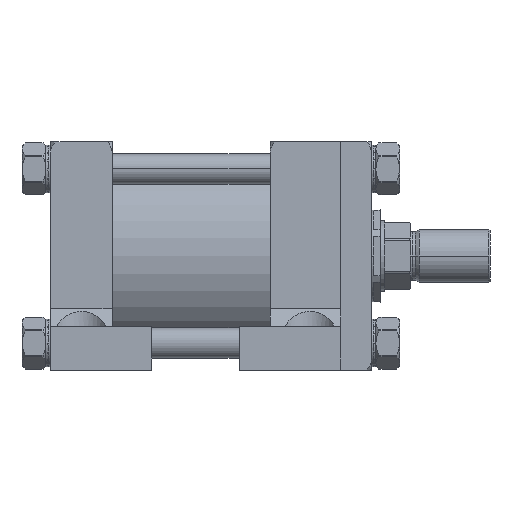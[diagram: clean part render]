
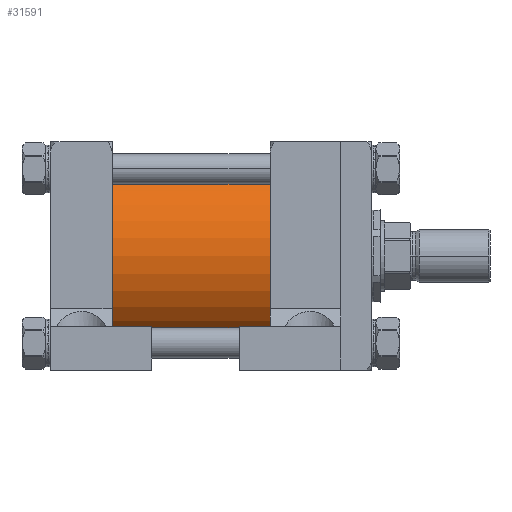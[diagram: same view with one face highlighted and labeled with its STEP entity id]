
A CAD part, front view. The second image highlights one B-rep face of the part: STEP entity #31591.
In plain terms, the highlighted cylindrical face has radius 73.025 mm (diameter 146.05 mm), a partial arc.
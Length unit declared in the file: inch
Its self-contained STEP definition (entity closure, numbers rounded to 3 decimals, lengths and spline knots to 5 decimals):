
#2464 = LINE ( 'NONE', #30349, #4382 ) ;
#2545 = ORIENTED_EDGE ( 'NONE', *, *, #36215, .T. ) ;
#3330 = EDGE_LOOP ( 'NONE', ( #29826, #2545, #46437, #58847 ) ) ;
#4382 = VECTOR ( 'NONE', #35982, 39.37008 ) ;
#5045 = CARTESIAN_POINT ( 'NONE',  ( -8.75, 0., -2.875 ) ) ;
#5155 = DIRECTION ( 'NONE',  ( 0., 0., -1. ) ) ;
#5754 = CARTESIAN_POINT ( 'NONE',  ( -8.75, 0., 0. ) ) ;
#5781 = CARTESIAN_POINT ( 'NONE',  ( -8.75, 0., 0. ) ) ;
#6100 = AXIS2_PLACEMENT_3D ( 'NONE', #24909, #38752, #53219 ) ;
#6422 = AXIS2_PLACEMENT_3D ( 'NONE', #5754, #25482, #53787 ) ;
#7953 = CYLINDRICAL_SURFACE ( 'NONE', #18632, 2.875 ) ;
#8418 = VECTOR ( 'NONE', #22705, 39.37008 ) ;
#8614 = VERTEX_POINT ( 'NONE', #32598 ) ;
#8896 = CARTESIAN_POINT ( 'NONE',  ( -8.75, 0., 2.875 ) ) ;
#9045 = VERTEX_POINT ( 'NONE', #14600 ) ;
#9260 = EDGE_CURVE ( 'NONE', #9045, #8614, #42219, .T. ) ;
#10192 = EDGE_CURVE ( 'NONE', #8614, #12783, #30105, .T. ) ;
#12783 = VERTEX_POINT ( 'NONE', #32149 ) ;
#14600 = CARTESIAN_POINT ( 'NONE',  ( -8.75, 0., 2.875 ) ) ;
#18632 = AXIS2_PLACEMENT_3D ( 'NONE', #5781, #43472, #5155 ) ;
#22705 = DIRECTION ( 'NONE',  ( 1., 0., 0. ) ) ;
#24909 = CARTESIAN_POINT ( 'NONE',  ( -3.75, 0., 0. ) ) ;
#25482 = DIRECTION ( 'NONE',  ( 1., 0., 0. ) ) ;
#29826 = ORIENTED_EDGE ( 'NONE', *, *, #9260, .F. ) ;
#30105 = CIRCLE ( 'NONE', #6100, 2.875 ) ;
#30349 = CARTESIAN_POINT ( 'NONE',  ( -8.75, 0., -2.875 ) ) ;
#31591 = ADVANCED_FACE ( 'NONE', ( #60960 ), #7953, .T. ) ;
#32149 = CARTESIAN_POINT ( 'NONE',  ( -3.75, 0., -2.875 ) ) ;
#32598 = CARTESIAN_POINT ( 'NONE',  ( -3.75, 0., 2.875 ) ) ;
#35450 = VERTEX_POINT ( 'NONE', #5045 ) ;
#35482 = CIRCLE ( 'NONE', #6422, 2.875 ) ;
#35982 = DIRECTION ( 'NONE',  ( 1., 0., 0. ) ) ;
#36215 = EDGE_CURVE ( 'NONE', #9045, #35450, #35482, .T. ) ;
#38752 = DIRECTION ( 'NONE',  ( 1., 0., 0. ) ) ;
#42219 = LINE ( 'NONE', #8896, #8418 ) ;
#43472 = DIRECTION ( 'NONE',  ( 1., 0., 0. ) ) ;
#46437 = ORIENTED_EDGE ( 'NONE', *, *, #55032, .T. ) ;
#53219 = DIRECTION ( 'NONE',  ( 0., 1., 0. ) ) ;
#53787 = DIRECTION ( 'NONE',  ( 0., 1., 0. ) ) ;
#55032 = EDGE_CURVE ( 'NONE', #35450, #12783, #2464, .T. ) ;
#58847 = ORIENTED_EDGE ( 'NONE', *, *, #10192, .F. ) ;
#60960 = FACE_OUTER_BOUND ( 'NONE', #3330, .T. ) ;
